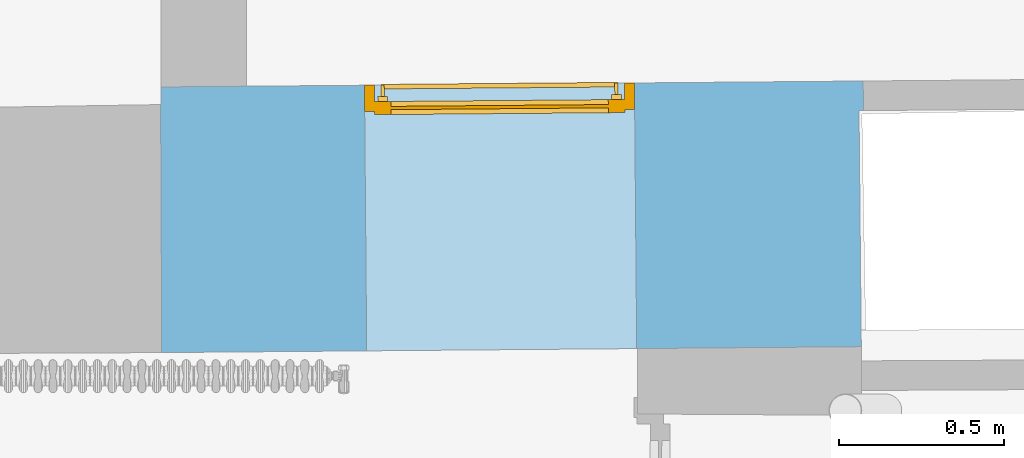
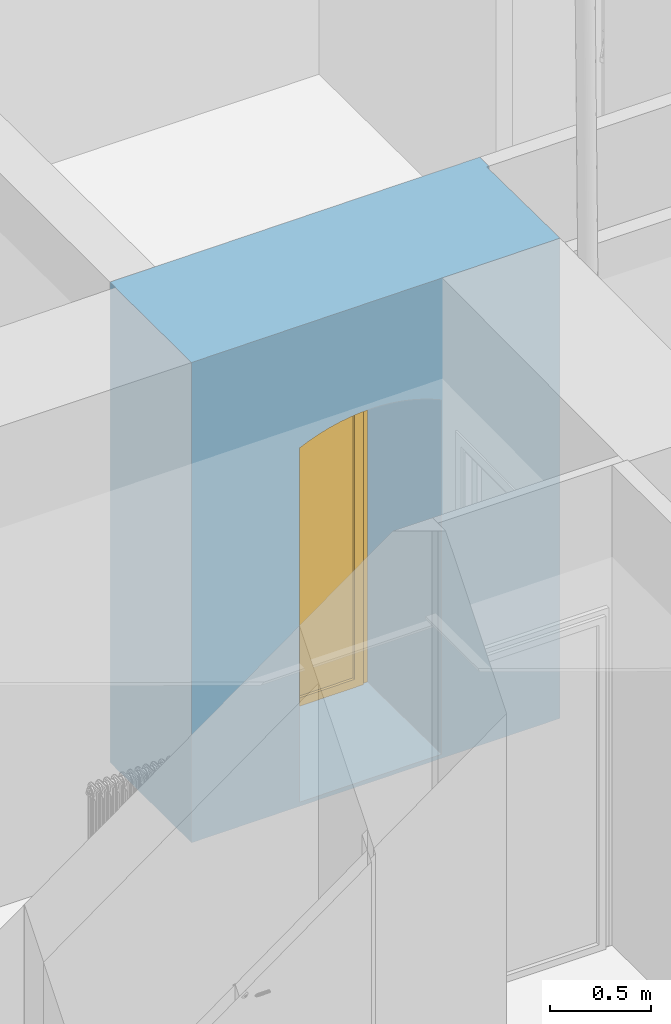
# One storey, part 109 of 133: 1 door, 1 opening, plus 1 element that does not belong to this part.
"""IFC2X3 building model written with IfcOpenShell, lengths in centimetres."""

from ifc_helpers import new_model, entity, si_unit, converted_unit, point, direction, frame, frame_2d, origin, origin_with_axes, place, context, subcontext, project, spatial, polyline, circle_curve, trimmed, segment, composite_curve, outline, extrude, faceted_brep, shape, source, transform, mapped, material, material_list, layer, layer_set, layer_usage, type_object, element, fill, save


model = new_model("IFC2X3")

# Units and contexts
model_context = context("Model", 3, precision=0.0001, world=origin(), true_north=direction((0.225632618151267, 0.974212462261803, 0.0)))
body_context = subcontext(model_context, "Body", "Model", "MODEL_VIEW")
footprint_context = subcontext(model_context, "FootPrint", "Model", "MODEL_VIEW")
profile_context = subcontext(model_context, "Profile", "Model", "MODEL_VIEW")
ifc_project = project(units=[si_unit("LENGTHUNIT", "METRE", prefix="CENTI"), si_unit("AREAUNIT", "SQUARE_METRE", prefix="CENTI"), si_unit("VOLUMEUNIT", "CUBIC_METRE", prefix="CENTI"), converted_unit("PLANEANGLEUNIT", "DEGREE", entity("IfcRatioMeasure", 0.0174532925), si_unit("PLANEANGLEUNIT", "RADIAN"), dimensions=[0, 0, 0, 0, 0, 0, 0])], contexts=[model_context])

# Site, building, storey
site_placement = place(None, origin_with_axes())
site = spatial("IfcSite", under=ifc_project, at=site_placement, Name="Default Site", CompositionType="ELEMENT")
building_placement = place(site_placement, origin_with_axes())
building = spatial("IfcBuilding", under=site, at=building_placement, Name="Default Building", CompositionType="ELEMENT")
storey_placement = place(building_placement, frame((0.0, 0.0, -291.400371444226), z_axis=(0.0, 0.0, 1.0), x_axis=(1.0, 0.0, 0.0)))
storey = spatial("IfcBuildingStorey", under=building, at=storey_placement, Name="Rez-de-Jardin", CompositionType="ELEMENT", Elevation=-291.400371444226)

# Wall, opening, door
ifc_material_1 = material(Name="<aucun>")
ifc_layer = layer(ifc_material_1, 80.7)
ifc_layer_set = layer_set([ifc_layer], Name="default")
ifc_layer_usage = layer_usage(ifc_layer_set, "AXIS2", "POSITIVE", -40.35)
wall_type = type_object("IfcWallType", Name="default 807", PredefinedType="NOTDEFINED", material=ifc_layer_set)
wall_placement = place(storey_placement, frame((684.099471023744, 195.562480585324, -1.94511073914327e-11), z_axis=(0.0, 0.0, 1.0), x_axis=(0.999964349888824, 0.00844387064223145, 0.0)))
wall = element("IfcWallStandardCase", 1, at=wall_placement, inside=storey, type_object=wall_type, material=ifc_layer_usage, Name="Enveloppe 72492", context=body_context, shape_type="SweptSolid", body=[
    extrude(outline(polyline([(0.29543068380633, 34.9893603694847), (-2.47801779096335e-11, -40.3499999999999), (212.515457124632, -40.35), (212.428386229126, 31.3500000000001), (213.760931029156, 31.3500000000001), (213.760931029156, 40.35), (0.481714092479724, 40.35), (0.449722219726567, 34.9905052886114), (0.29543068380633, 34.9893603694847)])), frame((0.0, 0.0, 1.33226762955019e-13), z_axis=(0.0, 0.0, 1.0), x_axis=(1.0, 0.0, 0.0)), (0.0, 0.0, 1.0), 291.413221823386),
])
opening_placement = place(wall_placement, frame((62.278238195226, -2.8421709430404e-14, 2.51091569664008), z_axis=(0.0, 0.0, 1.0), x_axis=(-1.0, -2.60208521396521e-17, 0.0)))
cartesian_point_1 = entity("IfcCartesianPoint", [0.0, 0.0, 215.0])
cartesian_point_2 = entity("IfcCartesianPoint", [-82.0000000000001, 0.0, 215.0])
cartesian_point_3 = entity("IfcCartesianPoint", [-81.9999999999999, -40.35])
opening = element("IfcOpeningElement", 2, at=opening_placement, cuts=wall, Name="4294966357_12", ObjectType="Opening", shapes=[
    shape(body_context, "Body", "SweptSolid", [extrude(outline(composite_curve([segment(polyline([(0.0, 215.0), (0.0, 4.44089209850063e-14), (81.9999999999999, 4.44089209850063e-14), (81.9999999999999, 215.0)]), True, "CONTINUOUS"), segment(trimmed(circle_curve(frame_2d((41.0, 127.800432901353), x_axis=(1.0, 0.0)), 96.3574828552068), [point((81.9999999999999, 215.0))], [point((0.0, 215.0))], True, "CARTESIAN"), True, "CONTINUOUS")], self_intersect=False)), frame((0.0, -50.35, 0.0), z_axis=(0.0, 1.0, 0.0), x_axis=(-1.0, 0.0, 0.0)), (0.0, 0.0, 1.0), 100.7)]),
    shape(profile_context, "Profile", "GeometricCurveSet", [entity("IfcGeometricCurveSet", [entity("IfcCompositeCurve", [entity("IfcCompositeCurveSegment", "CONTINUOUS", True, entity("IfcPolyline", [cartesian_point_1, entity("IfcCartesianPoint", [0.0, 0.0, 4.44089209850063e-14]), entity("IfcCartesianPoint", [-82.0000000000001, 0.0, 4.44089209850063e-14]), cartesian_point_2])), entity("IfcCompositeCurveSegment", "CONTINUOUS", True, entity("IfcTrimmedCurve", entity("IfcCircle", entity("IfcAxis2Placement3D", entity("IfcCartesianPoint", [-41.0, -2.22044604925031e-14, 127.800432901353]), entity("IfcDirection", [0.0, 1.0, 2.42461943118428e-15]), entity("IfcDirection", [1.0, 0.0, 0.0])), 96.3574828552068), [cartesian_point_2], [cartesian_point_1], True, "CARTESIAN"))], False)])]),
    shape(footprint_context, "FootPrint", "GeometricCurveSet", [entity("IfcGeometricCurveSet", [entity("IfcPolyline", [cartesian_point_3, entity("IfcCartesianPoint", [0.0, -40.35]), entity("IfcCartesianPoint", [0.0, 40.35]), entity("IfcCartesianPoint", [-81.9999999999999, 40.35]), cartesian_point_3])])]),
])
ifc_material_2 = material(Name="Vert clair_porte")
ifc_material_3 = material(Name="Aluminium satiné")
ifc_material_list = material_list([ifc_material_2, ifc_material_3])
door_style = type_object("IfcDoorStyle", Name="Porte de Secours_1VB[1P plein]_IMP arc", ConstructionType="NOTDEFINED", OperationType="NOTDEFINED", ParameterTakesPrecedence=False, Sizeable=False, material=ifc_material_list)
shared_shape = source(origin_with_axes(), body_context, "Body", "Brep", [
    faceted_brep([(40.9999996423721, 0.0, -3.99999991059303), (40.9999996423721, 0.0, 3.99999991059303), (37.9999995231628, 0.0, 3.99999991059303), (37.9999995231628, 0.0, -3.99999991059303), (37.9999995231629, 213.001680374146, 3.99999991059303), (37.9999995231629, 213.001680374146, -3.99999991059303), (40.9999996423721, 215.000009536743, 3.99999991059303), (37.9999995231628, 213.001680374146, 3.99999991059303), (40.9999996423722, 215.000009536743, -3.99999991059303), (40.9999996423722, 215.000009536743, 3.99999991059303), (37.9999995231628, 213.001680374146, -3.99999991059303), (40.9999996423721, 215.000009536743, -3.99999991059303), (32.1522717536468, 215.443524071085, 3.99999991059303), (32.1522717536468, 215.443524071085, -3.99999991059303), (33.1864982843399, 218.262696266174, 3.99999991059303), (32.1522682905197, 215.443515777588, 3.99999991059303), (33.1865010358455, 218.26270285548, -3.99999991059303), (33.1865010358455, 218.26270285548, 3.99999991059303), (32.1522682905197, 215.443515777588, -3.99999991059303), (33.1864982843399, 218.262696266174, -3.99999991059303), (24.333991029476, 217.927760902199, 3.99999991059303), (24.333991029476, 217.927760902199, -3.99999991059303), (25.1167356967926, 220.826840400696, 3.99999991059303), (24.333992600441, 217.927765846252, 3.99999991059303), (25.1167385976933, 220.826849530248, -3.99999991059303), (25.1167385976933, 220.826849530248, 3.99999991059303), (24.333992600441, 217.927765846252, -3.99999991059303), (25.1167356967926, 220.826840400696, -3.99999991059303), (16.327813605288, 219.71605642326, 3.99999991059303), (16.327813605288, 219.71605642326, -3.99999991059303), (16.8530210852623, 222.672653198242, 3.99999991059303), (16.3278117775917, 219.716048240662, 3.99999991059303), (16.8530214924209, 222.672655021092, -3.99999991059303), (16.8530214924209, 222.672655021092, 3.99999991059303), (16.3278117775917, 219.716048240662, -3.99999991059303), (16.8530210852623, 222.672653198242, -3.99999991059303), (8.1955477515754, 220.794576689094, 3.99999991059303), (8.1955477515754, 220.794576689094, -3.99999991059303), (8.45917090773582, 223.785877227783, 3.99999991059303), (8.19554850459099, 220.794582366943, 3.99999991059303), (8.45917049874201, 223.785874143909, -3.99999991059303), (8.45917049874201, 223.785874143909, 3.99999991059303), (8.19554850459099, 220.794582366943, -3.99999991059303), (8.45917090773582, 223.785877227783, -3.99999991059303), (-1.76468055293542e-07, 221.155019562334, 3.99999991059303), (-1.76468055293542e-07, 221.155019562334, -3.99999991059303), (-1.84107931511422e-14, 224.157905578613, 3.99999991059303), (-1.68485017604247e-14, 221.155023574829, 3.99999991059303), (1.25207292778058e-07, 224.157908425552, -3.99999991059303), (1.25207292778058e-07, 224.157908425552, 3.99999991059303), (-1.68485017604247e-14, 221.155023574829, -3.99999991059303), (-1.84107931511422e-14, 224.157905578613, -3.99999991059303), (-8.19554868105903, 220.794586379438, 3.99999991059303), (-8.19554868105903, 220.794586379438, -3.99999991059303), (-8.45917090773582, 223.785877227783, 3.99999991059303), (-8.19554850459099, 220.794582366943, 3.99999991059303), (-8.45917078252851, 223.785874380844, -3.99999991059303), (-8.45917078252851, 223.785874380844, 3.99999991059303), (-8.19554850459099, 220.794582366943, -3.99999991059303), (-8.45917090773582, 223.785877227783, -3.99999991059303), (-16.3278125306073, 219.716053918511, 3.99999991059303), (-16.3278125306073, 219.716053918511, -3.99999991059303), (-16.8530210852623, 222.672653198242, 3.99999991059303), (-16.3278117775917, 219.716048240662, 3.99999991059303), (-16.8530214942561, 222.672656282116, -3.99999991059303), (-16.8530214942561, 222.672656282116, 3.99999991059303), (-16.3278117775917, 219.716048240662, -3.99999991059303), (-16.8530210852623, 222.672653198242, -3.99999991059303), (-24.3339907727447, 217.927757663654, 3.99999991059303), (-24.3339907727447, 217.927757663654, -3.99999991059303), (-25.1167356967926, 220.826840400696, 3.99999991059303), (-24.333992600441, 217.927765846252, 3.99999991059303), (-25.116735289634, 220.826838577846, -3.99999991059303), (-25.116735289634, 220.826838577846, 3.99999991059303), (-24.333992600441, 217.927765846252, -3.99999991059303), (-25.1167356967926, 220.826840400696, -3.99999991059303), (-32.1522698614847, 215.443520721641, 3.99999991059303), (-32.1522698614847, 215.443520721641, -3.99999991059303), (-33.1864982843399, 218.262696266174, 3.99999991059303), (-32.1522682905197, 215.443515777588, 3.99999991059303), (-33.1864953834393, 218.262687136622, -3.99999991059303), (-33.1864953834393, 218.262687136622, 3.99999991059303), (-32.1522682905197, 215.443515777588, -3.99999991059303), (-33.1864982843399, 218.262696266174, -3.99999991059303), (-37.9999960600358, 213.001672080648, 3.99999991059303), (-37.9999960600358, 213.001672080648, -3.99999991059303), (-40.9999996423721, 215.000009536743, 3.99999991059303), (-37.9999995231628, 213.001680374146, 3.99999991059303), (-40.9999968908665, 215.000002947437, -3.99999991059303), (-40.9999968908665, 215.000002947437, 3.99999991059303), (-37.9999995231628, 213.001680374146, -3.99999991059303), (-40.9999996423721, 215.000009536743, -3.99999991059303), (-37.9999995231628, 0.0, -3.99999991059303), (-37.9999995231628, 0.0, 3.99999991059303), (-40.9999996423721, 0.0, 3.99999991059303), (-40.9999996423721, 0.0, -3.99999991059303), (-37.9999995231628, 3.61674154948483e-30, 3.99999991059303), (-37.9999995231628, 3.61674154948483e-30, -3.99999991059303), (-40.9999996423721, 5.73300092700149e-31, -3.99999991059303), (-40.9999996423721, 5.73300092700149e-31, 3.99999991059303)], [[[0, 1, 2, 3]], [[3, 2, 4, 5]], [[2, 1, 6, 7]], [[1, 0, 8, 9]], [[0, 3, 10, 11]], [[10, 7, 12, 13]], [[7, 6, 14, 15]], [[6, 11, 16, 17]], [[11, 10, 18, 19]], [[18, 15, 20, 21]], [[15, 14, 22, 23]], [[14, 19, 24, 25]], [[19, 18, 26, 27]], [[26, 23, 28, 29]], [[23, 22, 30, 31]], [[22, 27, 32, 33]], [[27, 26, 34, 35]], [[34, 31, 36, 37]], [[31, 30, 38, 39]], [[30, 35, 40, 41]], [[35, 34, 42, 43]], [[42, 39, 44, 45]], [[39, 38, 46, 47]], [[38, 43, 48, 49]], [[43, 42, 50, 51]], [[50, 47, 52, 53]], [[47, 46, 54, 55]], [[46, 51, 56, 57]], [[51, 50, 58, 59]], [[58, 55, 60, 61]], [[55, 54, 62, 63]], [[54, 59, 64, 65]], [[59, 58, 66, 67]], [[66, 63, 68, 69]], [[63, 62, 70, 71]], [[62, 67, 72, 73]], [[67, 66, 74, 75]], [[74, 71, 76, 77]], [[71, 70, 78, 79]], [[70, 75, 80, 81]], [[75, 74, 82, 83]], [[82, 79, 84, 85]], [[79, 78, 86, 87]], [[78, 83, 88, 89]], [[83, 82, 90, 91]], [[92, 93, 94, 95]], [[90, 87, 96, 97]], [[87, 86, 94, 93]], [[86, 91, 98, 99]], [[91, 90, 92, 95]]]),
    faceted_brep([(-33.0000013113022, 209.660267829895, 0.999999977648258), (-33.0000013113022, 209.660267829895, 5.00000007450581), (-33.0000013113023, 5.00000007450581, 5.00000007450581), (-33.0000013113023, 5.00000007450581, 0.999999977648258), (-37.9999995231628, 213.074231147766, 5.00000007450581), (-37.9999995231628, 0.0, 5.00000007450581), (-33.0000013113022, 5.00000007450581, 5.00000007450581), (-37.9999995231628, 213.074231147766, 0.999999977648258), (-37.999999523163, 5.78481576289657e-29, 0.999999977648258), (-37.999999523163, 5.78481576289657e-29, 5.00000007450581), (-33.0000013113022, 5.00000007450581, 0.999999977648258), (-37.9999995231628, 0.0, 0.999999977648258), (33.0000013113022, 5.0000000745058, 5.00000007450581), (33.0000013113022, 5.0000000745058, 0.999999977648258), (37.9999995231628, 0.0, 5.00000007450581), (33.0000013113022, 5.00000007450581, 5.00000007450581), (37.9999995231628, 0.0, 0.999999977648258), (33.0000013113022, 5.00000007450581, 0.999999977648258), (33.0000013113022, 209.660267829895, 5.00000007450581), (33.0000013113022, 209.660267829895, 0.999999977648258), (37.9999995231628, 213.074231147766, 5.00000007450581), (37.9999995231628, 213.074231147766, 0.999999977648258), (28.2995708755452, 211.497626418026, 5.00000007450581), (28.2995708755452, 211.497626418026, 0.999999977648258), (29.9028307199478, 216.239333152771, 5.00000007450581), (28.2995671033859, 211.497616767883, 5.00000007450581), (29.9028351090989, 216.239344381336, 0.999999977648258), (29.9028351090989, 216.239344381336, 5.00000007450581), (28.2995671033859, 211.497616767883, 0.999999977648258), (29.9028307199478, 216.239333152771, 0.999999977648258), (20.3911156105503, 213.767208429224, 5.00000007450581), (20.3911156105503, 213.767208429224, 0.999999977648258), (21.5463399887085, 218.63751411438, 5.00000007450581), (20.3911185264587, 213.767218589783, 5.00000007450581), (21.546337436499, 218.637505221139, 0.999999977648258), (21.546337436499, 218.637505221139, 5.00000007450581), (20.3911185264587, 213.767218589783, 0.999999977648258), (21.5463399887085, 218.63751411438, 0.999999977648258), (12.3058345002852, 215.291303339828, 5.00000007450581), (12.3058345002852, 215.291303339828, 0.999999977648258), (13.0030006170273, 220.247936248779, 5.00000007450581), (12.30583563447, 215.291309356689, 5.00000007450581), (13.0030018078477, 220.247942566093, 0.999999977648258), (13.0030018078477, 220.247942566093, 5.00000007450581), (12.30583563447, 215.291309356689, 0.999999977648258), (13.0030006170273, 220.247936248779, 0.999999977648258), (4.1138381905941, 216.056670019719, 5.00000007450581), (4.1138381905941, 216.056670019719, 0.999999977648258), (4.34689931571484, 221.056652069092, 5.00000007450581), (4.1138369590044, 216.056656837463, 5.00000007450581), (4.34689978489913, 221.056657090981, 0.999999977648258), (4.34689978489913, 221.056657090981, 5.00000007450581), (4.1138369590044, 216.056656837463, 0.999999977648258), (4.34689931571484, 221.056652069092, 0.999999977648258), (-4.1138369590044, 216.056656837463, 5.00000007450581), (-4.1138369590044, 216.056656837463, 0.999999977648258), (-4.34689931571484, 221.056652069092, 5.00000007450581), (-4.34689931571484, 221.056652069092, 0.999999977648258), (-12.3058344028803, 215.291296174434, 5.00000007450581), (-12.3058344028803, 215.291296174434, 0.999999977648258), (-13.0030006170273, 220.247936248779, 5.00000007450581), (-12.30583563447, 215.291309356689, 5.00000007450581), (-13.003000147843, 220.24793122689, 0.999999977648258), (-13.003000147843, 220.24793122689, 5.00000007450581), (-12.30583563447, 215.291309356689, 0.999999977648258), (-13.0030006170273, 220.247936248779, 0.999999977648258), (-20.3911196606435, 213.767224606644, 5.00000007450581), (-20.3911196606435, 213.767224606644, 0.999999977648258), (-21.5463399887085, 218.63751411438, 5.00000007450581), (-20.3911185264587, 213.767218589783, 5.00000007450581), (-21.546338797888, 218.637507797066, 0.999999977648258), (-21.546338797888, 218.637507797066, 5.00000007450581), (-20.3911185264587, 213.767218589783, 0.999999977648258), (-21.5463399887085, 218.63751411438, 0.999999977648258), (-28.2995700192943, 211.497626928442, 5.00000007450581), (-28.2995700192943, 211.497626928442, 0.999999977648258), (-29.9028307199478, 216.239333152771, 5.00000007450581), (-28.2995671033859, 211.497616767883, 5.00000007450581), (-29.9028332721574, 216.239342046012, 0.999999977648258), (-29.9028332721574, 216.239342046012, 5.00000007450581), (-28.2995671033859, 211.497616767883, 0.999999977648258), (-29.9028307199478, 216.239333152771, 0.999999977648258), (-32.9999975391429, 209.660258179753, 5.00000007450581), (-32.9999975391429, 209.660258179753, 0.999999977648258), (-37.9999951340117, 213.074219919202, 0.999999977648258), (-37.9999951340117, 213.074219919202, 5.00000007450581)], [[[0, 1, 2, 3]], [[1, 4, 5, 6]], [[4, 7, 8, 9]], [[7, 0, 10, 11]], [[10, 6, 12, 13]], [[6, 5, 14, 15]], [[5, 11, 16, 14]], [[11, 10, 17, 16]], [[17, 15, 18, 19]], [[15, 14, 20, 18]], [[14, 16, 21, 20]], [[16, 17, 19, 21]], [[19, 18, 22, 23]], [[18, 20, 24, 25]], [[20, 21, 26, 27]], [[21, 19, 28, 29]], [[28, 25, 30, 31]], [[25, 24, 32, 33]], [[24, 29, 34, 35]], [[29, 28, 36, 37]], [[36, 33, 38, 39]], [[33, 32, 40, 41]], [[32, 37, 42, 43]], [[37, 36, 44, 45]], [[44, 41, 46, 47]], [[41, 40, 48, 49]], [[40, 45, 50, 51]], [[45, 44, 52, 53]], [[52, 49, 54, 55]], [[49, 48, 56, 54]], [[48, 53, 57, 56]], [[53, 52, 55, 57]], [[55, 54, 58, 59]], [[54, 56, 60, 61]], [[56, 57, 62, 63]], [[57, 55, 64, 65]], [[64, 61, 66, 67]], [[61, 60, 68, 69]], [[60, 65, 70, 71]], [[65, 64, 72, 73]], [[72, 69, 74, 75]], [[69, 68, 76, 77]], [[68, 73, 78, 79]], [[73, 72, 80, 81]], [[80, 77, 82, 83]], [[77, 76, 4, 1]], [[76, 81, 84, 85]], [[81, 80, 0, 7]]]),
    faceted_brep([(34.0000003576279, 111.537110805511, 0.999999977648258), (34.0000003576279, 101.537108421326, 0.999999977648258), (37.0000004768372, 101.537108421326, 0.999999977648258), (37.0000004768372, 111.537110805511, 0.999999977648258), (37.0000004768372, 111.537110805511, -0.499999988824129), (37.0000004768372, 101.537108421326, -0.499999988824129), (34.0000003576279, 101.537108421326, -0.499999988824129), (34.0000003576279, 111.537110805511, -0.499999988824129)], [[[0, 1, 2, 3]], [[4, 5, 6, 7]], [[3, 2, 5, 4]], [[2, 1, 6, 5]], [[1, 0, 7, 6]], [[0, 3, 4, 7]]]),
    faceted_brep([(34.9999994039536, 107.787108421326, -0.499999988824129), (34.9999994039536, 105.287110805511, -0.499999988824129), (36.0000014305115, 105.287110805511, -0.499999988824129), (36.0000014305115, 107.787108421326, -0.499999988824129), (36.0000014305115, 98.2871115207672, -3.95454540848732), (36.0000014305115, 98.2871115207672, -3.045454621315), (34.9999994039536, 98.2871115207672, -3.045454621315), (34.9999994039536, 98.2871115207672, -3.95454540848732), (34.9999994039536, 98.287111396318, -3.04545427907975), (36.0000014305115, 98.287111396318, -3.04545427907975), (36.0000014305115, 98.2871111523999, -3.95454439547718), (34.9999994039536, 98.2871111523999, -3.95454439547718)], [[[0, 1, 2, 3]], [[4, 5, 6, 7]], [[3, 2, 5, 4]], [[2, 1, 8, 9]], [[1, 0, 7, 6]], [[0, 3, 10, 11]]]),
    faceted_brep([(-37.0000004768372, 111.537110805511, 0.999999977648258), (-37.0000004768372, 101.537108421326, 0.999999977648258), (-34.0000003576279, 101.537108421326, 0.999999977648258), (-34.0000003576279, 111.537110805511, 0.999999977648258), (-34.0000003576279, 111.537110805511, -0.499999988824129), (-34.0000003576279, 101.537108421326, -0.499999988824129), (-37.0000004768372, 101.537108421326, -0.499999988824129), (-37.0000004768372, 111.537110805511, -0.499999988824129)], [[[0, 1, 2, 3]], [[4, 5, 6, 7]], [[3, 2, 5, 4]], [[2, 1, 6, 5]], [[1, 0, 7, 6]], [[0, 3, 4, 7]]]),
    faceted_brep([(-36.0000014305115, 107.787108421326, -0.499999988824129), (-36.0000014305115, 105.287110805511, -0.499999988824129), (-34.9999994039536, 105.287110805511, -0.499999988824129), (-34.9999994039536, 107.787108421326, -0.499999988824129), (-34.9999994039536, 98.2871115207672, -3.95454540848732), (-34.9999994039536, 98.2871115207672, -3.045454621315), (-36.0000014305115, 98.2871115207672, -3.045454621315), (-36.0000014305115, 98.2871115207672, -3.95454540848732), (-36.0000014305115, 98.287111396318, -3.04545427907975), (-34.9999994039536, 98.287111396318, -3.04545427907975), (-34.9999994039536, 98.2871111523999, -3.95454439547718), (-36.0000014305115, 98.2871111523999, -3.95454439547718)], [[[0, 1, 2, 3]], [[4, 5, 6, 7]], [[3, 2, 5, 4]], [[2, 1, 8, 9]], [[1, 0, 7, 6]], [[0, 3, 10, 11]]]),
    faceted_brep([(36.0000014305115, 95.2871143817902, -4.19999994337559), (36.0000014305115, 98.2871115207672, -4.19999994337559), (36.0000014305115, 98.2871115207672, -2.80000008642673), (36.0000014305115, 95.2871143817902, -2.80000008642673), (-36.0000014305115, 95.2871143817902, -2.80000008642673), (-36.0000014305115, 98.2871115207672, -2.80000008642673), (-36.0000014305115, 98.2871115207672, -4.19999994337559), (-36.0000014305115, 95.2871143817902, -4.19999994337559)], [[[0, 1, 2, 3]], [[4, 5, 6, 7]], [[3, 2, 5, 4]], [[2, 1, 6, 5]], [[1, 0, 7, 6]], [[0, 3, 4, 7]]]),
    faceted_brep([(-25.0178754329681, 212.542104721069, 2.5000000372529), (-16.8068498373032, 214.544749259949, 2.5000000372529), (-8.44204500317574, 215.753698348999, 2.5000000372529), (1.0547118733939e-13, 216.157913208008, 2.5000000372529), (8.44204500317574, 215.753698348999, 2.5000000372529), (16.8068498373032, 214.544749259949, 2.5000000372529), (25.0178754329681, 212.542104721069, 2.5000000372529), (33.0000013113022, 209.764122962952, 2.5000000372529), (33.0000013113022, 200.471067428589, 2.5000000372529), (-33.0000013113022, 200.471067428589, 2.5000000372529), (-33.0000013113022, 209.764122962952, 2.5000000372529), (-33.0000013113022, 209.764122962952, 3.50000001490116), (-33.0000013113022, 200.471067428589, 3.50000001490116), (33.0000013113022, 200.471067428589, 3.50000001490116), (33.0000013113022, 209.764122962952, 3.50000001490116), (25.0178754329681, 212.542104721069, 3.50000001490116), (16.8068498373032, 214.544749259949, 3.50000001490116), (8.44204500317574, 215.753698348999, 3.50000001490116), (1.0547118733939e-13, 216.157913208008, 3.50000001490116), (-8.44204500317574, 215.753698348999, 3.50000001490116), (-16.8068498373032, 214.544749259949, 3.50000001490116), (-25.0178754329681, 212.542104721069, 3.50000001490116), (25.0178783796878, 212.54211318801, 2.5000000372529), (25.0178783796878, 212.54211318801, 3.50000001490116), (16.8068477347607, 214.544740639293, 2.5000000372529), (16.8068477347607, 214.544740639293, 3.50000001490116), (8.44204631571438, 215.753707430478, 2.5000000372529), (8.44204631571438, 215.753707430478, 3.50000001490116), (1.90794491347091e-07, 216.157917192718, 2.5000000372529), (1.90794491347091e-07, 216.157917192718, 3.50000001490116), (-8.44204481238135, 215.753694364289, 2.5000000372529), (-8.44204481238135, 215.753694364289, 3.50000001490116), (-16.8068485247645, 214.54474017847, 2.5000000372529), (-16.8068485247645, 214.54474017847, 3.50000001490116), (-25.0178775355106, 212.542113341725, 2.5000000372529), (-25.0178775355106, 212.542113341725, 3.50000001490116), (-32.9999983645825, 209.764114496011, 2.5000000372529), (-32.9999983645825, 209.764114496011, 3.50000001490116)], [[[0, 1, 2, 3, 4, 5, 6, 7, 8, 9, 10]], [[11, 12, 13, 14, 15, 16, 17, 18, 19, 20, 21]], [[10, 9, 12, 11]], [[9, 8, 13, 12]], [[8, 7, 14, 13]], [[7, 22, 23, 14]], [[6, 24, 25, 15]], [[5, 26, 27, 16]], [[4, 28, 29, 17]], [[3, 30, 31, 18]], [[2, 32, 33, 19]], [[1, 34, 35, 20]], [[0, 36, 37, 21]]]),
    faceted_brep([(33.0000013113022, 198.471069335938, 5.00000007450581), (33.0000013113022, 198.471069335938, 0.999999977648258), (33.0000013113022, 200.471067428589, 0.999999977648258), (33.0000013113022, 200.471067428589, 5.00000007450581), (-33.0000013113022, 200.471067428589, 5.00000007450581), (-33.0000013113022, 200.471067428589, 0.999999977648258), (-33.0000013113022, 198.471069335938, 0.999999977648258), (-33.0000013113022, 198.471069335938, 5.00000007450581)], [[[0, 1, 2, 3]], [[4, 5, 6, 7]], [[3, 2, 5, 4]], [[2, 1, 6, 5]], [[1, 0, 7, 6]], [[0, 3, 4, 7]]]),
    faceted_brep([(33.0000013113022, 198.471069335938, 2.5000000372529), (33.0000013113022, 5.00000007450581, 2.5000000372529), (-33.0000013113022, 5.00000007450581, 2.5000000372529), (-33.0000013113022, 198.471069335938, 2.5000000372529), (-33.0000013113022, 198.471069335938, 3.50000001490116), (-33.0000013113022, 5.00000007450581, 3.50000001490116), (33.0000013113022, 5.00000007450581, 3.50000001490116), (33.0000013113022, 198.471069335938, 3.50000001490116)], [[[0, 1, 2, 3]], [[4, 5, 6, 7]], [[3, 2, 5, 4]], [[2, 1, 6, 5]], [[1, 0, 7, 6]], [[0, 3, 4, 7]]]),
])
door_placement = place(opening_placement, frame((-81.9999999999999, -40.35, 5.55111512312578e-17), z_axis=(0.0, 0.0, 1.0), x_axis=(1.0, 0.0, 0.0)))
door = element("IfcDoor", 3, at=door_placement, inside=storey, type_object=door_style, material=ifc_material_list, Name="Porte 73807", OverallHeight=224.15791575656, OverallWidth=82.0, context=body_context, shape_type="MappedRepresentation", body=[
    mapped(shared_shape, transform((41.0, 4.0, 0.0), x_axis=(-1.0, 0.0, 0.0), y_axis=(0.0, 0.0, 1.0), z_axis=(0.0, 1.0, 0.0), scale=1.0, scale2=1.0, scale3=1.0, uniform=False)),
])
fill(opening, door)

save(model, "model.ifc")
